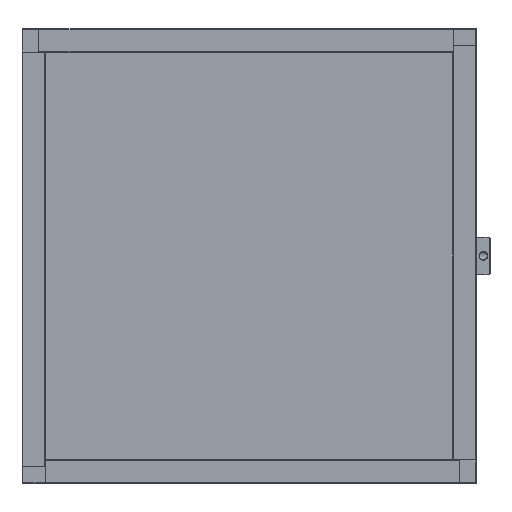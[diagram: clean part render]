
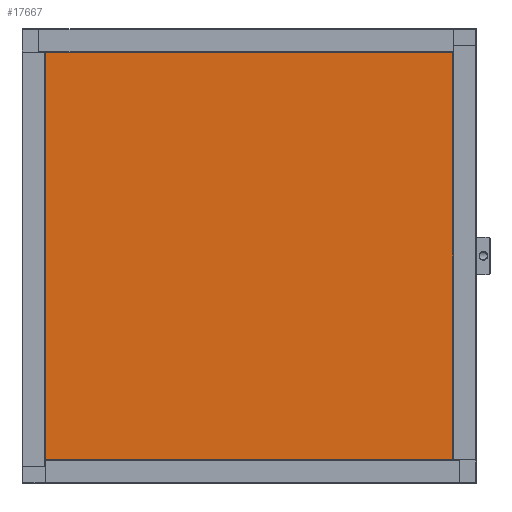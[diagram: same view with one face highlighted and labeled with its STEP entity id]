
A CAD part, front view. The second image highlights one B-rep face of the part: STEP entity #17667.
In plain terms, the highlighted planar face has unit normal (0, -1, 0).
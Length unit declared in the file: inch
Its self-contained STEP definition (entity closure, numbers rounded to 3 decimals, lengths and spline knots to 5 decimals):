
#199 = EDGE_CURVE ( 'NONE', #16042, #17308, #7958, .T. ) ;
#1551 = ORIENTED_EDGE ( 'NONE', *, *, #19147, .T. ) ;
#1613 = VECTOR ( 'NONE', #7077, 39.37008 ) ;
#2522 = VECTOR ( 'NONE', #20136, 39.37008 ) ;
#5537 = VECTOR ( 'NONE', #9835, 39.37008 ) ;
#5822 = CARTESIAN_POINT ( 'NONE',  ( 0., 0., -8.334 ) ) ;
#7077 = DIRECTION ( 'NONE',  ( -1., 0., 0. ) ) ;
#7767 = DIRECTION ( 'NONE',  ( 0., -1., 0. ) ) ;
#7958 = LINE ( 'NONE', #21337, #5537 ) ;
#8352 = FACE_OUTER_BOUND ( 'NONE', #15473, .T. ) ;
#8702 = VERTEX_POINT ( 'NONE', #17775 ) ;
#8898 = AXIS2_PLACEMENT_3D ( 'NONE', #5822, #7767, #19115 ) ;
#9183 = ORIENTED_EDGE ( 'NONE', *, *, #199, .T. ) ;
#9835 = DIRECTION ( 'NONE',  ( 0., 0., -1. ) ) ;
#11039 = ORIENTED_EDGE ( 'NONE', *, *, #11831, .T. ) ;
#11115 = CARTESIAN_POINT ( 'NONE',  ( 8.239, 0., -8.239 ) ) ;
#11341 = VERTEX_POINT ( 'NONE', #15392 ) ;
#11831 = EDGE_CURVE ( 'NONE', #17308, #8702, #13902, .T. ) ;
#13902 = LINE ( 'NONE', #16224, #2522 ) ;
#15392 = CARTESIAN_POINT ( 'NONE',  ( 8.239, 0., -0.095 ) ) ;
#15473 = EDGE_LOOP ( 'NONE', ( #1551, #21093, #9183, #11039 ) ) ;
#16017 = CARTESIAN_POINT ( 'NONE',  ( 0.095, 0., -8.239 ) ) ;
#16042 = VERTEX_POINT ( 'NONE', #22202 ) ;
#16224 = CARTESIAN_POINT ( 'NONE',  ( 0.095, 0., -8.239 ) ) ;
#17200 = VECTOR ( 'NONE', #22456, 39.37008 ) ;
#17213 = PLANE ( 'NONE',  #8898 ) ;
#17308 = VERTEX_POINT ( 'NONE', #16017 ) ;
#17667 = ADVANCED_FACE ( 'NONE', ( #8352 ), #17213, .T. ) ;
#17775 = CARTESIAN_POINT ( 'NONE',  ( 8.239, 0., -8.239 ) ) ;
#18271 = CARTESIAN_POINT ( 'NONE',  ( 8.239, 0., -0.095 ) ) ;
#18591 = LINE ( 'NONE', #18271, #1613 ) ;
#19115 = DIRECTION ( 'NONE',  ( 0., 0., -1. ) ) ;
#19147 = EDGE_CURVE ( 'NONE', #8702, #11341, #24341, .T. ) ;
#20136 = DIRECTION ( 'NONE',  ( 1., 0., 0. ) ) ;
#21093 = ORIENTED_EDGE ( 'NONE', *, *, #22615, .T. ) ;
#21337 = CARTESIAN_POINT ( 'NONE',  ( 0.095, 0., -0.095 ) ) ;
#22202 = CARTESIAN_POINT ( 'NONE',  ( 0.095, 0., -0.095 ) ) ;
#22456 = DIRECTION ( 'NONE',  ( 0., 0., 1. ) ) ;
#22615 = EDGE_CURVE ( 'NONE', #11341, #16042, #18591, .T. ) ;
#24341 = LINE ( 'NONE', #11115, #17200 ) ;
